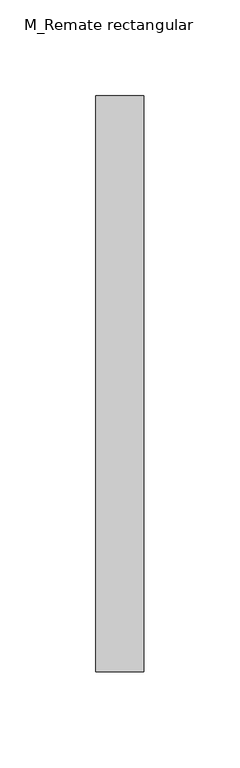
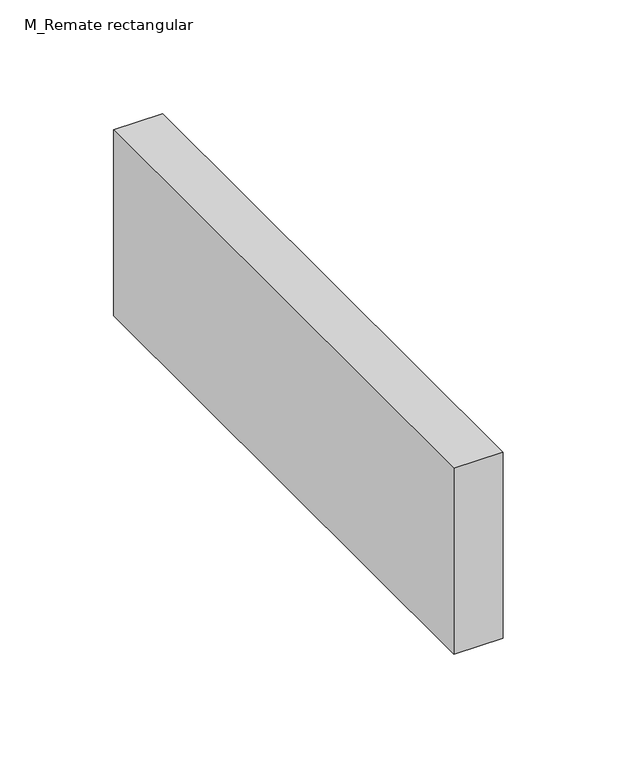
"""IFC4 building model written with IfcOpenShell, lengths in millimetres: duct fitting geometry, M_Remate rectangular : Estándar."""

from ifc_helpers import new_model, si_unit, frame, origin, place, context, project, spatial, polyline, outline, extrude, source, transform, mapped, element, save


def m_remate_rectangular_d882b36d(model_context):
    return source(origin(), model_context, "Body", "SweptSolid", [
        extrude(outline(polyline([(0.0, -150.0), (0.0, 150.0), (25.0, 150.0), (25.0, -150.0), (0.0, -150.0)])), frame((0.0, 0.0, -50.0), z_axis=(0.0, 0.0, 1.0), x_axis=(1.0, 0.0, 0.0)), (0.0, 0.0, 1.0), 100.0),
    ])


if __name__ == "__main__":
    model = new_model("IFC4")
    model_context = context("Model", 3, world=origin())
    ifc_project = project(units=[si_unit("LENGTHUNIT", "METRE", prefix="MILLI")], contexts=[model_context])
    site = spatial("IfcSite", under=ifc_project)
    building = spatial("IfcBuilding", under=site)
    placement = place(None, origin())
    m_remate_rectangular_shape = m_remate_rectangular_d882b36d(model_context)
    element("IfcDuctFitting", 1, ObjectType="M_Remate rectangular : Estándar", at=placement, inside=building, context=model_context, shape_type="MappedRepresentation", body=[
        mapped(m_remate_rectangular_shape, transform((0.0, 0.0, 0.0), x_axis=(1.0, 0.0, 0.0), y_axis=(0.0, 1.0, 0.0), z_axis=(0.0, 0.0, 1.0))),
    ])
    save(model, "model.ifc")
